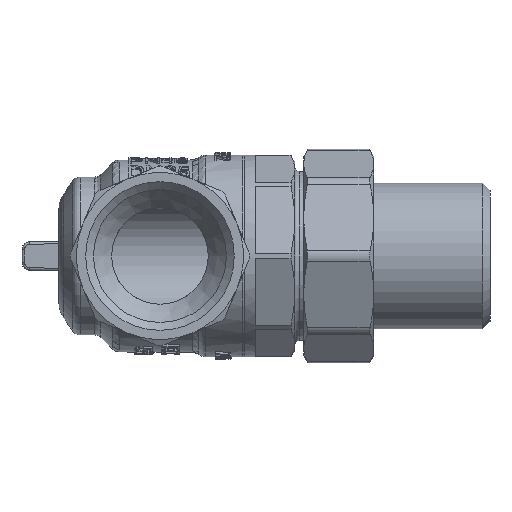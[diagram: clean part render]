
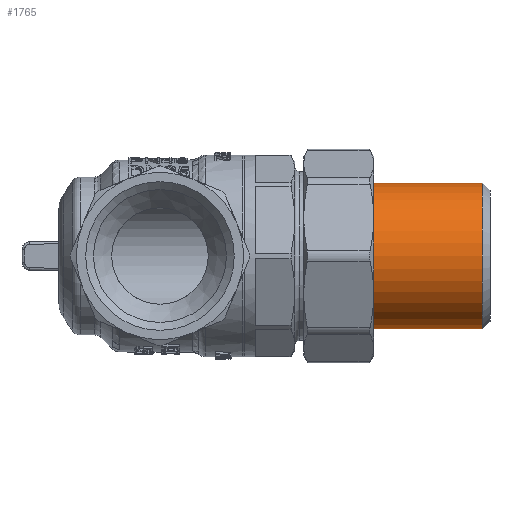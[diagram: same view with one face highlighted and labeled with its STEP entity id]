
A CAD part, front view. The second image highlights one B-rep face of the part: STEP entity #1765.
In plain terms, the highlighted cylindrical face has radius 16.625 mm (diameter 33.249 mm), a full revolution.
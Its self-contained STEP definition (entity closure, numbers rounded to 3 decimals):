
#1765=ADVANCED_FACE('',(#15333,#15335),#15337,.T.);
#15333=FACE_OUTER_BOUND('',#15334,.T.);
#15334=EDGE_LOOP('',(#26956));
#15335=FACE_OUTER_BOUND('',#15336,.T.);
#15336=EDGE_LOOP('',(#26957));
#15337=CYLINDRICAL_SURFACE('',#15338,16.625);
#15338=AXIS2_PLACEMENT_3D('',#15339,#15340,#15341);
#15339=CARTESIAN_POINT('',(37.255,0.,0.));
#15340=DIRECTION('',(1.,0.,0.));
#15341=DIRECTION('',(0.,1.,0.));
#26956=ORIENTED_EDGE('',*,*,#32988,.T.);
#26957=ORIENTED_EDGE('',*,*,#32987,.F.);
#32987=EDGE_CURVE('',#41762,#41762,#41763,.F.);
#32988=EDGE_CURVE('',#41764,#41764,#41765,.T.);
#41762=VERTEX_POINT('',#70999);
#41763=CIRCLE('',#71000,16.625);
#41764=VERTEX_POINT('',#71004);
#41765=CIRCLE('',#71005,16.625);
#70999=CARTESIAN_POINT('',(45.255,16.625,0.));
#71000=AXIS2_PLACEMENT_3D('',#71001,#71002,#71003);
#71001=CARTESIAN_POINT('',(45.255,0.,0.));
#71002=DIRECTION('',(1.,0.,0.));
#71003=DIRECTION('',(0.,1.,0.));
#71004=CARTESIAN_POINT('',(73.53,16.625,0.));
#71005=AXIS2_PLACEMENT_3D('',#71006,#71007,#71008);
#71006=CARTESIAN_POINT('',(73.53,0.,0.));
#71007=DIRECTION('',(-1.,0.,0.));
#71008=DIRECTION('',(0.,1.,0.));
